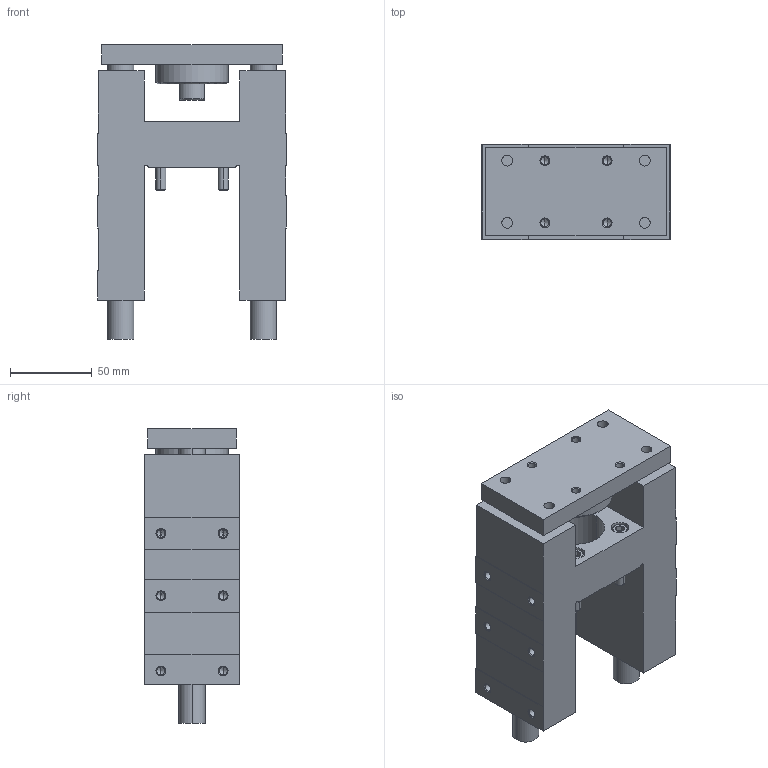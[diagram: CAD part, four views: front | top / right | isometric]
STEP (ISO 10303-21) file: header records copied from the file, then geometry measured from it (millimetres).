
FILE_DESCRIPTION (( 'STEP AP203' ), '1' );
FILE_NAME ('GB40-10.STEP', '2020-04-24T11:14:44', ( '' ), ( '' ), 'SwSTEP 2.0', 'SolidWorks 2019', '' );
FILE_SCHEMA (( 'CONFIG_CONTROL_DESIGN' ));
Length unit declared in the file: millimetre
Products named in the file (1): GB40-10
Bounding box: 115 x 58 x 180 mm (x, y, z)
Volume: 615631.3 mm3; surface area: 123478.2 mm2
Topology: 6 solids, 6 shells, 357 faces, 802 edges, 456 vertices
Faces by surface type: cone 142, plane 113, cylinder 102
Entity records: 10283 total; most frequent: CARTESIAN_POINT 2222, DIRECTION 1796, ORIENTED_EDGE 1532, EDGE_CURVE 766, AXIS2_PLACEMENT_3D 700, VERTEX_POINT 456, EDGE_LOOP 422, VECTOR 396
